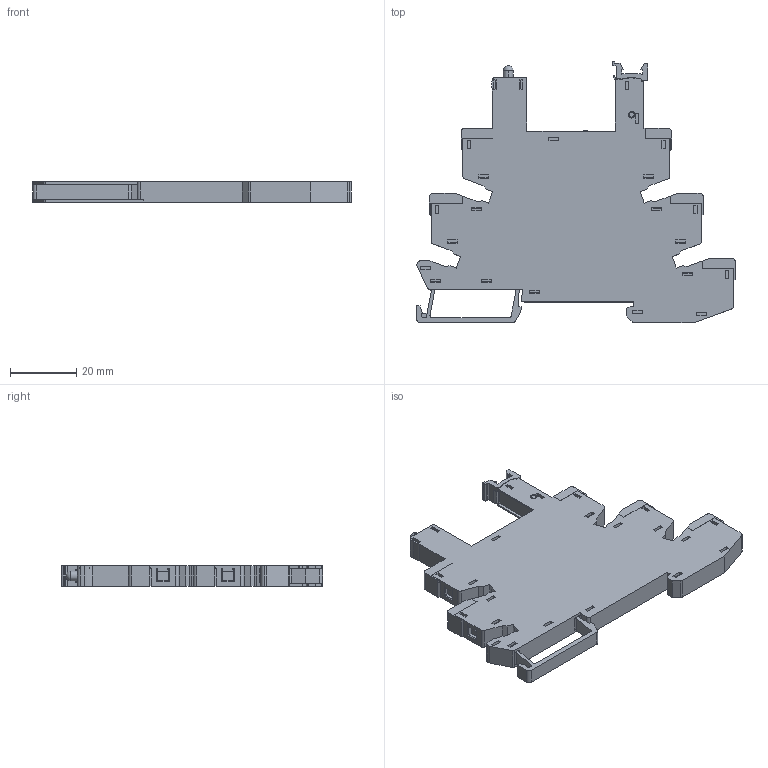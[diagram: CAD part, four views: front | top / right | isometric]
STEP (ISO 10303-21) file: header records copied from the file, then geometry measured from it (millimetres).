
FILE_DESCRIPTION (( 'STEP AP203' ), '1' );
FILE_NAME ('SNC05-E 俋倛.STEP', '2023-01-11T06:17:28', ( '' ), ( '' ), 'SwSTEP 2.0', 'SolidWorks 2018', '' );
FILE_SCHEMA (( 'CONFIG_CONTROL_DESIGN' ));
Length unit declared in the file: millimetre
Products named in the file (1): SNC05-E 俋倛
Bounding box: 96 x 78.71 x 6.2 mm (x, y, z)
Volume: 26032.5 mm3; surface area: 14527.6 mm2
Topology: 1 solids, 1 shells, 1089 faces, 3120 edges, 2041 vertices
Faces by surface type: plane 881, cylinder 168, torus 29, cone 10, sphere 1
Entity records: 35928 total; most frequent: CARTESIAN_POINT 7307, ORIENTED_EDGE 6236, DIRECTION 5517, EDGE_CURVE 3118, VECTOR 2573, LINE 2573, VERTEX_POINT 2040, AXIS2_PLACEMENT_3D 1472
